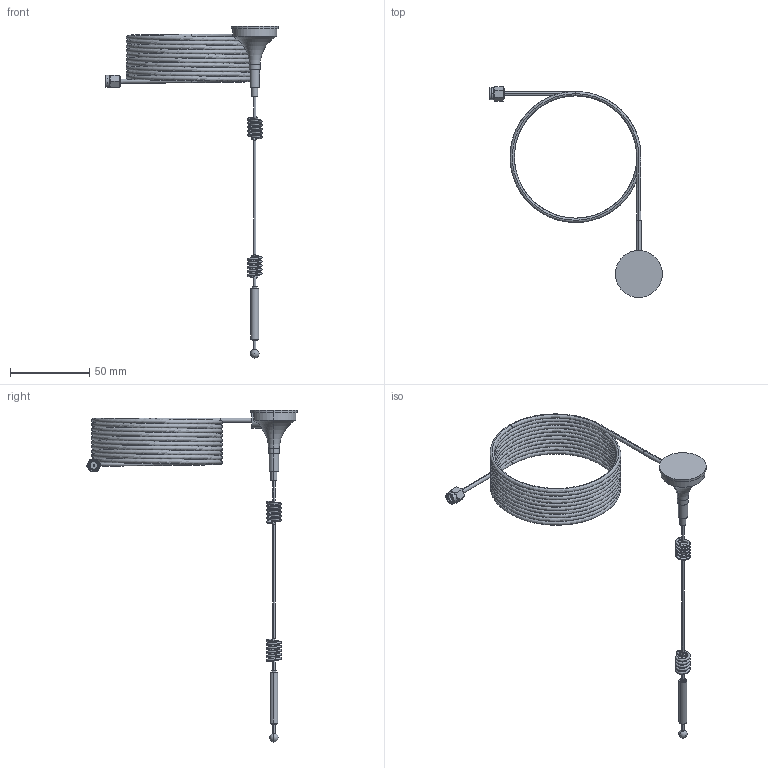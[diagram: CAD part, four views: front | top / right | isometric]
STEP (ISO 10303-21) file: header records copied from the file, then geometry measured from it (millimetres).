
FILE_DESCRIPTION (( 'STEP AP214' ), '1' );
FILE_NAME ('Antena 4G.STEP', '2022-01-18T16:57:49', ( '' ), ( '' ), 'SwSTEP 2.0', 'SolidWorks 2021', '' );
FILE_SCHEMA (( 'AUTOMOTIVE_DESIGN' ));
Length unit declared in the file: millimetre
Products named in the file (1): Antena 4G
Bounding box: 109.14 x 133.42 x 210 mm (x, y, z)
Volume: 25249.6 mm3; surface area: 28932.6 mm2
Topology: 3 solids, 3 shells, 104 faces, 233 edges, 148 vertices
Faces by surface type: cylinder 45, plane 29, bspline 14, torus 10, cone 4, sphere 2
Entity records: 13971 total; most frequent: CARTESIAN_POINT 10521, DIRECTION 490, ORIENTED_EDGE 456, EDGE_CURVE 228, AXIS2_PLACEMENT_3D 211, VERTEX_POINT 145, CIRCLE 120, EDGE_LOOP 119
